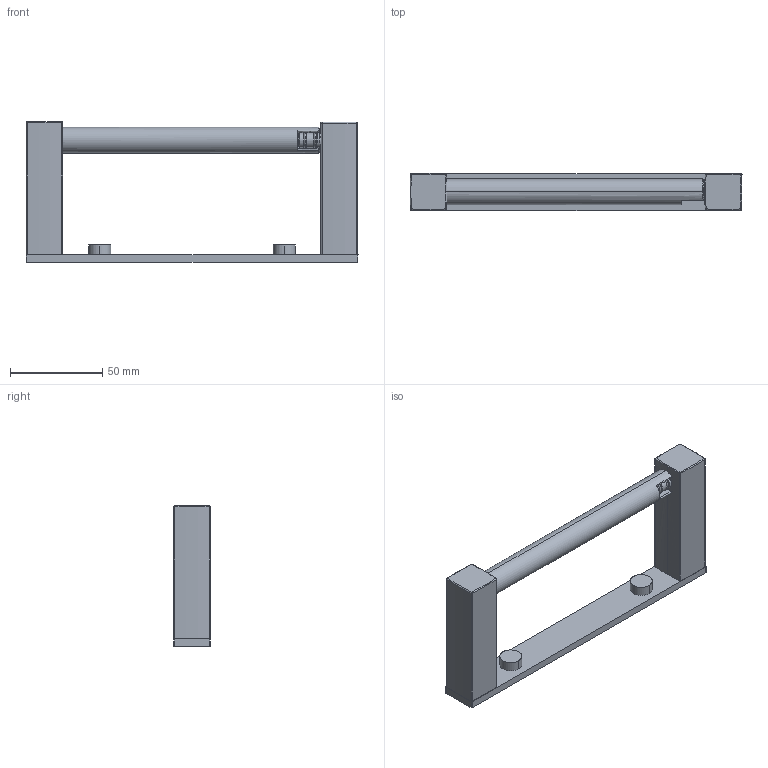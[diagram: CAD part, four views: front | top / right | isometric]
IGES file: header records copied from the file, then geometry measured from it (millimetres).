
Start section: SolidWorks IGES file using analytic representation for surfaces
Global section: file name: G:\Projects\New project\For Marketing\IGS\IGS\2015-12-4\384001002VW.IGS; native system: SolidWorks 2010; preprocessor: SolidWorks 2010; author: weijuan; date: 151201.163717; units: inch
Bounding box: 180 x 20 x 76.2 mm (x, y, z)
Surface area: 29689 mm2 (no closed solid volume)
Topology: 0 solids, 0 shells, 151 faces, 1393 edges, 1385 vertices
Faces by surface type: revolution 83, bspline 68
